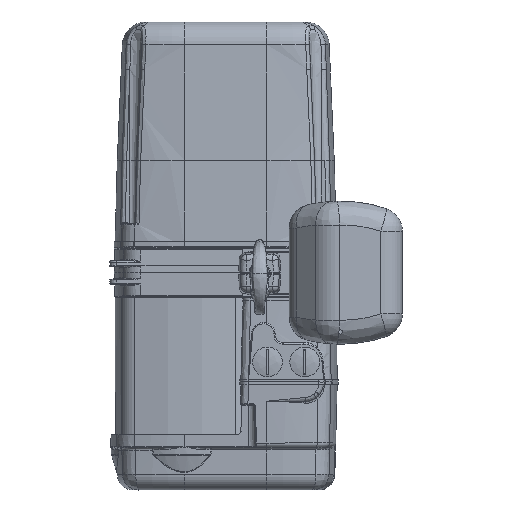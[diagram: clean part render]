
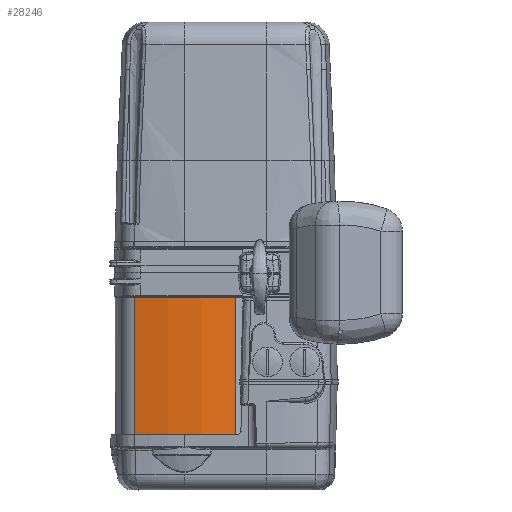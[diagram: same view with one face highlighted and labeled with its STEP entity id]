
A CAD part, front view. The second image highlights one B-rep face of the part: STEP entity #28246.
In plain terms, the highlighted cylindrical face has radius 175.5 mm (diameter 351 mm), a partial arc.
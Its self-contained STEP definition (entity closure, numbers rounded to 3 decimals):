
#1878=CIRCLE('',#30206,175.5);
#1879=CIRCLE('',#30207,175.5);
#3732=CYLINDRICAL_SURFACE('',#30205,175.5);
#4186=FACE_OUTER_BOUND('',#6120,.T.);
#6120=EDGE_LOOP('',(#18895,#18896,#18897,#18898));
#9143=LINE('',#42072,#10395);
#9149=LINE('',#42303,#10401);
#10395=VECTOR('',#33723,115.51);
#10401=VECTOR('',#33779,115.537);
#11650=VERTEX_POINT('',#42065);
#11653=VERTEX_POINT('',#42070);
#11684=VERTEX_POINT('',#42299);
#11685=VERTEX_POINT('',#42301);
#14314=EDGE_CURVE('',#11650,#11653,#9143,.T.);
#14352=EDGE_CURVE('',#11684,#11685,#9149,.T.);
#14353=EDGE_CURVE('',#11653,#11684,#1878,.T.);
#14354=EDGE_CURVE('',#11685,#11650,#1879,.T.);
#18895=ORIENTED_EDGE('',*,*,#14353,.T.);
#18896=ORIENTED_EDGE('',*,*,#14352,.T.);
#18897=ORIENTED_EDGE('',*,*,#14354,.T.);
#18898=ORIENTED_EDGE('',*,*,#14314,.T.);
#28246=ADVANCED_FACE('',(#4186),#3732,.T.);
#30205=AXIS2_PLACEMENT_3D('',#42304,#33780,#33781);
#30206=AXIS2_PLACEMENT_3D('',#42305,#33782,#33783);
#30207=AXIS2_PLACEMENT_3D('',#42306,#33784,#33785);
#33723=DIRECTION('',(0.,0.,1.));
#33779=DIRECTION('',(0.,0.,-1.));
#33780=DIRECTION('center_axis',(0.,0.,
-1.));
#33781=DIRECTION('ref_axis',(0.151,-0.989,0.));
#33782=DIRECTION('center_axis',(0.,0.,
-1.));
#33783=DIRECTION('ref_axis',(0.151,-0.989,0.));
#33784=DIRECTION('center_axis',(0.,0.,
1.));
#33785=DIRECTION('ref_axis',(0.647,-0.762,0.));
#42065=CARTESIAN_POINT('',(-5.377,-157.506,-136.01));
#42070=CARTESIAN_POINT('',(-5.377,-157.506,-20.5));
#42072=CARTESIAN_POINT('',(-5.377,-157.506,-23.5));
#42299=CARTESIAN_POINT('',(-90.123,-157.506,-20.5));
#42301=CARTESIAN_POINT('',(-90.123,-157.506,-136.037));
#42303=CARTESIAN_POINT('',(-90.123,-157.506,-23.5));
#42304=CARTESIAN_POINT('Origin',(-47.75,12.802,-23.5));
#42305=CARTESIAN_POINT('Origin',(-47.75,12.802,-20.5));
#42306=CARTESIAN_POINT('Origin',(-47.75,12.802,-136.087));
